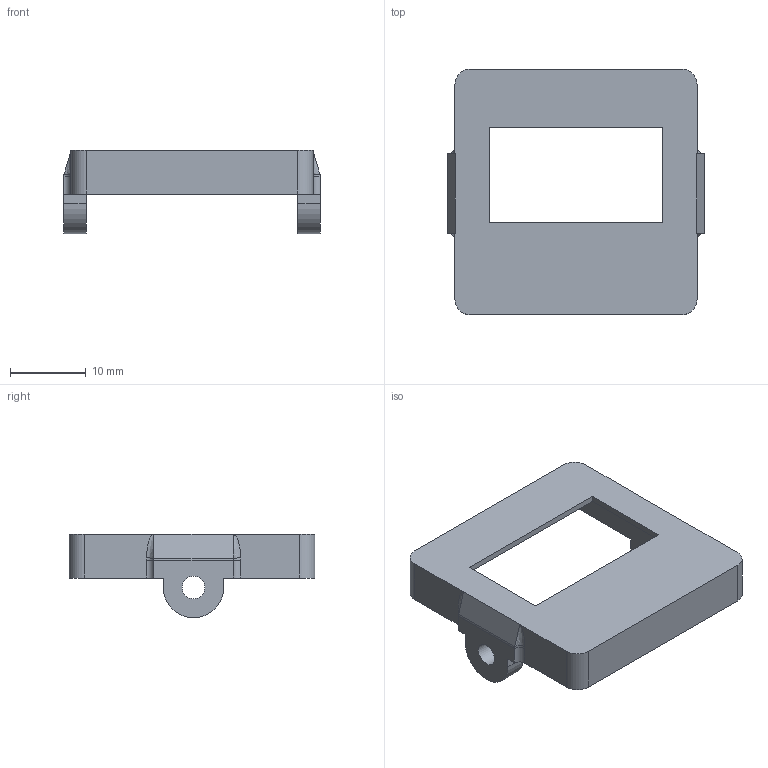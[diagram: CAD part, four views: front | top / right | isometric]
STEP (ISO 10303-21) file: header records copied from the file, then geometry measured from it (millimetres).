
FILE_DESCRIPTION(/* description */ (''),/* implementation_level */ '2;1');
FILE_NAME(/* name */ 'C:\Users\Dayton\Box Sync\BRICOLAGE\IMPRIMANTE 3D\PIECES\PIECE DISCOVERY\CUSTOM\BOITE AFFICHEUR OLED\V2\STP\support écranV2.stp',/* time_stamp */ '2016-04-07T19:24:50+02:00',/* author */ ('Dayton'),/* organization */ (''),/* preprocessor_version */ 'ST-DEVELOPER v15.6',/* originating_system */ 'Autodesk Inventor 2015',/* authorisation */ '');
FILE_SCHEMA (('AUTOMOTIVE_DESIGN { 1 0 10303 214 3 1 1 }'));
Length unit declared in the file: millimetre
Products named in the file (1): support écranV2
Bounding box: 33.9 x 32.5 x 11.05 mm (x, y, z)
Volume: 2038.3 mm3; surface area: 3101 mm2
Topology: 1 solids, 1 shells, 56 faces, 181 edges, 144 vertices
Faces by surface type: plane 30, cylinder 18, bspline 8
Full cylindrical faces by diameter (mm): 3 x2
Entity records: 2184 total; most frequent: CARTESIAN_POINT 633, DIRECTION 314, ORIENTED_EDGE 304, EDGE_CURVE 152, LINE 116, VECTOR 116, VERTEX_POINT 100, AXIS2_PLACEMENT_3D 99
